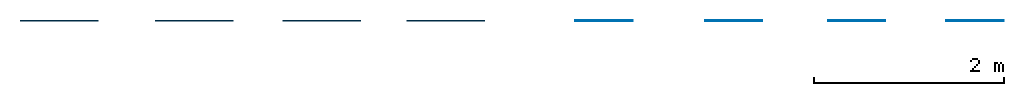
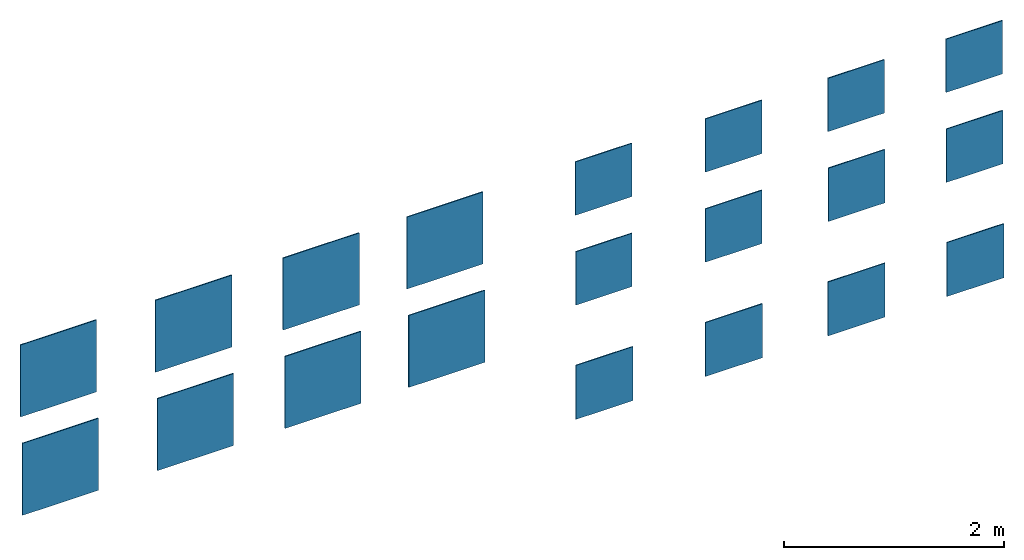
# One storey: 20 walls.
"""IFC2X3 building model written with IfcOpenShell, lengths in metres."""

from ifc_helpers import new_model, entity, si_unit, converted_unit, derived_unit, direction, frame, frame_2d, origin, place, context, subcontext, project, spatial, rectangle, extrude, material, layer, layer_set, layer_usage, type_object, element, save


model = new_model("IFC2X3")

# Units and contexts
model_context = context("Model", 3, precision=1e-05, world=origin(), true_north=direction((6.12303176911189e-17, 1.0)))
body_context = subcontext(model_context, "Body", "Model", "MODEL_VIEW")
ifc_project = project(units=[si_unit("LENGTHUNIT", "METRE"), si_unit("AREAUNIT", "SQUARE_METRE"), si_unit("VOLUMEUNIT", "CUBIC_METRE"), converted_unit("PLANEANGLEUNIT", "DEGREE", entity("IfcRatioMeasure", 0.0174532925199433), si_unit("PLANEANGLEUNIT", "RADIAN"), dimensions=[0, 0, 0, 0, 0, 0, 0]), si_unit("MASSUNIT", "GRAM", prefix="KILO"), si_unit("TIMEUNIT", "SECOND"), si_unit("FREQUENCYUNIT", "HERTZ"), si_unit("THERMODYNAMICTEMPERATUREUNIT", "DEGREE_CELSIUS"), derived_unit("THERMALTRANSMITTANCEUNIT", [(si_unit("MASSUNIT", "GRAM", prefix="KILO"), 1), (si_unit("THERMODYNAMICTEMPERATUREUNIT", "KELVIN"), -1), (si_unit("TIMEUNIT", "SECOND"), -3)]), derived_unit("VOLUMETRICFLOWRATEUNIT", [(si_unit("LENGTHUNIT", "METRE"), 3), (si_unit("TIMEUNIT", "SECOND"), -1)]), si_unit("ELECTRICCURRENTUNIT", "AMPERE"), si_unit("ELECTRICVOLTAGEUNIT", "VOLT"), si_unit("POWERUNIT", "WATT"), si_unit("FORCEUNIT", "NEWTON", prefix="KILO"), si_unit("ILLUMINANCEUNIT", "LUX"), si_unit("LUMINOUSFLUXUNIT", "LUMEN"), si_unit("LUMINOUSINTENSITYUNIT", "CANDELA"), derived_unit("USERDEFINED", [(si_unit("MASSUNIT", "GRAM", prefix="KILO"), -1), (si_unit("LENGTHUNIT", "METRE"), -2), (si_unit("TIMEUNIT", "SECOND"), 3), (si_unit("LUMINOUSFLUXUNIT", "LUMEN"), 1)]), derived_unit("LINEARVELOCITYUNIT", [(si_unit("LENGTHUNIT", "METRE"), 1), (si_unit("TIMEUNIT", "SECOND"), -1)]), si_unit("PRESSUREUNIT", "PASCAL"), derived_unit("USERDEFINED", [(si_unit("LENGTHUNIT", "METRE"), -2), (si_unit("MASSUNIT", "GRAM", prefix="KILO"), 1), (si_unit("TIMEUNIT", "SECOND"), -2)])], contexts=[model_context])

# Site, building, storey
site_placement = place(None, origin())
site = spatial("IfcSite", under=ifc_project, at=site_placement, Name="Default", CompositionType="ELEMENT")
building_placement = place(site_placement, origin())
building = spatial("IfcBuilding", under=site, at=building_placement, CompositionType="ELEMENT")
storey_placement = place(building_placement, frame((0.0, 0.0, 3.0)))
storey = spatial("IfcBuildingStorey", under=building, at=storey_placement, Name="Nivel 2", CompositionType="ELEMENT", Elevation=3.0)

# Walls
ifc_material_1 = material(Name="VIVES PORTOFINO CEMENTO 60x60")
ifc_layer_1 = layer(ifc_material_1, 0.01)
ifc_layer_set_1 = layer_set([ifc_layer_1], Name="Muro básico:VIVES - PORTOFINO CEMENTO 60X60")
ifc_layer_usage_1 = layer_usage(ifc_layer_set_1, "AXIS2", "NEGATIVE", 0.005)
wall_type_1 = type_object("IfcWallType", Name="Muro básico:VIVES - PORTOFINO CEMENTO 60X60", PredefinedType="STANDARD", material=ifc_layer_set_1)
wall_1_placement = place(storey_placement, frame((2.81809668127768, 0.493691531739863, -0.7)))
element("IfcWallStandardCase", 1, at=wall_1_placement, inside=storey, type_object=wall_type_1, material=ifc_layer_usage_1, Name="Muro básico:VIVES - PORTOFINO CEMENTO 60X60", ObjectType="Muro básico:VIVES - PORTOFINO CEMENTO 60X60", context=body_context, shape_type="SweptSolid", body=[
    extrude(rectangle(XDim=0.6, YDim=0.01, at=frame_2d((0.3, -4.77048955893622e-18), x_axis=(-1.0, 0.0))), origin(), (0.0, 0.0, 1.0), 0.6),
])
ifc_material_2 = material(Name="VIVES PORTOFINO GRAFITO 60x60")
ifc_layer_2 = layer(ifc_material_2, 0.01)
ifc_layer_set_2 = layer_set([ifc_layer_2], Name="Muro básico:VIVES - PORTOFINO GRAFITO 60X60")
ifc_layer_usage_2 = layer_usage(ifc_layer_set_2, "AXIS2", "NEGATIVE", 0.005)
wall_type_2 = type_object("IfcWallType", Name="Muro básico:VIVES - PORTOFINO GRAFITO 60X60", PredefinedType="STANDARD", material=ifc_layer_set_2)
wall_2_placement = place(storey_placement, frame((4.17984668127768, 0.493691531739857, -0.7)))
element("IfcWallStandardCase", 2, at=wall_2_placement, inside=storey, type_object=wall_type_2, material=ifc_layer_usage_2, Name="Muro básico:VIVES - PORTOFINO GRAFITO 60X60", ObjectType="Muro básico:VIVES - PORTOFINO GRAFITO 60X60", context=body_context, shape_type="SweptSolid", body=[
    extrude(rectangle(XDim=0.6, YDim=0.01, at=frame_2d((0.3, -4.77048955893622e-18), x_axis=(-1.0, 0.0))), origin(), (0.0, 0.0, 1.0), 0.6),
])
ifc_material_3 = material(Name="VIVES PORTOFINO CREMA 60x60")
ifc_layer_3 = layer(ifc_material_3, 0.01)
ifc_layer_set_3 = layer_set([ifc_layer_3], Name="Muro básico:VIVES - PORTOFINO CREMA 60X60")
ifc_layer_usage_3 = layer_usage(ifc_layer_set_3, "AXIS2", "NEGATIVE", 0.005)
wall_type_3 = type_object("IfcWallType", Name="Muro básico:VIVES - PORTOFINO CREMA 60X60", PredefinedType="STANDARD", material=ifc_layer_set_3)
wall_3_placement = place(storey_placement, frame((5.46984668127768, 0.493691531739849, -0.7)))
element("IfcWallStandardCase", 3, at=wall_3_placement, inside=storey, type_object=wall_type_3, material=ifc_layer_usage_3, Name="Muro básico:VIVES - PORTOFINO CREMA 60X60", ObjectType="Muro básico:VIVES - PORTOFINO CREMA 60X60", context=body_context, shape_type="SweptSolid", body=[
    extrude(rectangle(XDim=0.6, YDim=0.01, at=frame_2d((0.3, -4.77048955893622e-18), x_axis=(-1.0, 0.0))), origin(), (0.0, 0.0, 1.0), 0.6),
])
ifc_material_4 = material(Name="VIVES PORTOFINO HUMO 60x60")
ifc_layer_4 = layer(ifc_material_4, 0.01)
ifc_layer_set_4 = layer_set([ifc_layer_4], Name="Muro básico:VIVES - PORTOFINO HUMO 60X60")
ifc_layer_usage_4 = layer_usage(ifc_layer_set_4, "AXIS2", "NEGATIVE", 0.005)
wall_type_4 = type_object("IfcWallType", Name="Muro básico:VIVES - PORTOFINO HUMO 60X60", PredefinedType="STANDARD", material=ifc_layer_set_4)
wall_4_placement = place(storey_placement, frame((6.71809668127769, 0.493691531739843, -0.7)))
element("IfcWallStandardCase", 4, at=wall_4_placement, inside=storey, type_object=wall_type_4, material=ifc_layer_usage_4, Name="Muro básico:VIVES - PORTOFINO HUMO 60X60", ObjectType="Muro básico:VIVES - PORTOFINO HUMO 60X60", context=body_context, shape_type="SweptSolid", body=[
    extrude(rectangle(XDim=0.6, YDim=0.01, at=frame_2d((0.3, -4.77048955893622e-18), x_axis=(-1.0, 0.0))), origin(), (0.0, 0.0, 1.0), 0.6),
])
ifc_material_5 = material(Name="VIVES PORTOFINO-R HUMO 59.3x59.3")
ifc_layer_5 = layer(ifc_material_5, 0.01)
ifc_layer_set_5 = layer_set([ifc_layer_5], Name="Muro básico:VIVES - PORTOFINO-R HUMO 59,3X59,3")
ifc_layer_usage_5 = layer_usage(ifc_layer_set_5, "AXIS2", "NEGATIVE", 0.005)
wall_type_5 = type_object("IfcWallType", Name="Muro básico:VIVES - PORTOFINO-R HUMO 59,3X59,3", PredefinedType="STANDARD", material=ifc_layer_set_5)
wall_5_placement = place(storey_placement, frame((6.70984668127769, 0.493691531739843, 1.57)))
element("IfcWallStandardCase", 5, at=wall_5_placement, inside=storey, type_object=wall_type_5, material=ifc_layer_usage_5, Name="Muro básico:VIVES - PORTOFINO-R HUMO 59,3X59,3", ObjectType="Muro básico:VIVES - PORTOFINO-R HUMO 59,3X59,3", context=body_context, shape_type="SweptSolid", body=[
    extrude(rectangle(XDim=0.593, YDim=0.01, at=frame_2d((0.2965, 2.68882138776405e-17), x_axis=(-1.0, 0.0))), origin(), (0.0, 0.0, 1.0), 0.593000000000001),
])
ifc_material_6 = material(Name="VIVES PORTOFINO-R CREMA 59.3x59.3")
ifc_layer_6 = layer(ifc_material_6, 0.01)
ifc_layer_set_6 = layer_set([ifc_layer_6], Name="Muro básico:VIVES - PORTOFINO-R CREMA 59,3X59,3")
ifc_layer_usage_6 = layer_usage(ifc_layer_set_6, "AXIS2", "NEGATIVE", 0.005)
wall_type_6 = type_object("IfcWallType", Name="Muro básico:VIVES - PORTOFINO-R CREMA 59,3X59,3", PredefinedType="STANDARD", material=ifc_layer_set_6)
wall_6_placement = place(storey_placement, frame((5.46984668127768, 0.493691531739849, 1.57)))
element("IfcWallStandardCase", 6, at=wall_6_placement, inside=storey, type_object=wall_type_6, material=ifc_layer_usage_6, Name="Muro básico:VIVES - PORTOFINO-R CREMA 59,3X59,3", ObjectType="Muro básico:VIVES - PORTOFINO-R CREMA 59,3X59,3", context=body_context, shape_type="SweptSolid", body=[
    extrude(rectangle(XDim=0.593000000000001, YDim=0.01, at=frame_2d((0.2965, 2.68882138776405e-17), x_axis=(-1.0, 0.0))), origin(), (0.0, 0.0, 1.0), 0.593000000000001),
])
ifc_material_7 = material(Name="VIVES PORTOFINO-R GRAFITO 59.3x59.3")
ifc_layer_7 = layer(ifc_material_7, 0.01)
ifc_layer_set_7 = layer_set([ifc_layer_7], Name="Muro básico:VIVES - PORTOFINO-R GRAFITO 59,3X59,3")
ifc_layer_usage_7 = layer_usage(ifc_layer_set_7, "AXIS2", "NEGATIVE", 0.005)
wall_type_7 = type_object("IfcWallType", Name="Muro básico:VIVES - PORTOFINO-R GRAFITO 59,3X59,3", PredefinedType="STANDARD", material=ifc_layer_set_7)
wall_7_placement = place(storey_placement, frame((4.17984668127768, 0.493691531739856, 1.57)))
element("IfcWallStandardCase", 7, at=wall_7_placement, inside=storey, type_object=wall_type_7, material=ifc_layer_usage_7, Name="Muro básico:VIVES - PORTOFINO-R GRAFITO 59,3X59,3", ObjectType="Muro básico:VIVES - PORTOFINO-R GRAFITO 59,3X59,3", context=body_context, shape_type="SweptSolid", body=[
    extrude(rectangle(XDim=0.593, YDim=0.01, at=frame_2d((0.2965, 2.47198095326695e-17), x_axis=(-1.0, 0.0))), origin(), (0.0, 0.0, 1.0), 0.593000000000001),
])
ifc_material_8 = material(Name="VIVES PORTOFINO-R CEMENTO 59,3x59,3")
ifc_layer_8 = layer(ifc_material_8, 0.01)
ifc_layer_set_8 = layer_set([ifc_layer_8], Name="Muro básico:VIVES - PORTOFINO-R CEMENTO 59,3X59,3")
ifc_layer_usage_8 = layer_usage(ifc_layer_set_8, "AXIS2", "NEGATIVE", 0.005)
wall_type_8 = type_object("IfcWallType", Name="Muro básico:VIVES - PORTOFINO-R CEMENTO 59,3X59,3", PredefinedType="STANDARD", material=ifc_layer_set_8)
wall_8_placement = place(storey_placement, frame((2.81484668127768, 0.493691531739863, 1.57)))
element("IfcWallStandardCase", 8, at=wall_8_placement, inside=storey, type_object=wall_type_8, material=ifc_layer_usage_8, Name="Muro básico:VIVES - PORTOFINO-R CEMENTO 59,3X59,3", ObjectType="Muro básico:VIVES - PORTOFINO-R CEMENTO 59,3X59,3", context=body_context, shape_type="SweptSolid", body=[
    extrude(rectangle(XDim=0.593, YDim=0.01, at=frame_2d((0.2965, 2.68882138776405e-17), x_axis=(-1.0, 0.0))), origin(), (0.0, 0.0, 1.0), 0.593000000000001),
])
ifc_material_9 = material(Name="VIVES PORTOFINO-SPR HUMO 59.3x59.3")
ifc_layer_9 = layer(ifc_material_9, 0.01)
ifc_layer_set_9 = layer_set([ifc_layer_9], Name="Muro básico:VIVES - PORTOFINO-SPR HUMO 59,3X59,3")
ifc_layer_usage_9 = layer_usage(ifc_layer_set_9, "AXIS2", "NEGATIVE", 0.005)
wall_type_9 = type_object("IfcWallType", Name="Muro básico:VIVES - PORTOFINO-SPR HUMO 59,3X59,3", PredefinedType="STANDARD", material=ifc_layer_set_9)
wall_9_placement = place(storey_placement, frame((6.71309668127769, 0.493691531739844, 0.57)))
element("IfcWallStandardCase", 9, at=wall_9_placement, inside=storey, type_object=wall_type_9, material=ifc_layer_usage_9, Name="Muro básico:VIVES - PORTOFINO-SPR HUMO 59,3X59,3", ObjectType="Muro básico:VIVES - PORTOFINO-SPR HUMO 59,3X59,3", context=body_context, shape_type="SweptSolid", body=[
    extrude(rectangle(XDim=0.593, YDim=0.01, at=frame_2d((0.2965, 2.68882138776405e-17), x_axis=(-1.0, 0.0))), origin(), (0.0, 0.0, 1.0), 0.593),
])
ifc_material_10 = material(Name="VIVES PORTOFINO-SPR CREMA 59.3x59.3")
ifc_layer_10 = layer(ifc_material_10, 0.01)
ifc_layer_set_10 = layer_set([ifc_layer_10], Name="Muro básico:VIVES - PORTOFINO-SPR CREMA 59,3X59,3")
ifc_layer_usage_10 = layer_usage(ifc_layer_set_10, "AXIS2", "NEGATIVE", 0.005)
wall_type_10 = type_object("IfcWallType", Name="Muro básico:VIVES - PORTOFINO-SPR CREMA 59,3X59,3", PredefinedType="STANDARD", material=ifc_layer_set_10)
wall_10_placement = place(storey_placement, frame((5.47309668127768, 0.49369153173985, 0.57)))
element("IfcWallStandardCase", 10, at=wall_10_placement, inside=storey, type_object=wall_type_10, material=ifc_layer_usage_10, Name="Muro básico:VIVES - PORTOFINO-SPR CREMA 59,3X59,3", ObjectType="Muro básico:VIVES - PORTOFINO-SPR CREMA 59,3X59,3", context=body_context, shape_type="SweptSolid", body=[
    extrude(rectangle(XDim=0.593000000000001, YDim=0.01, at=frame_2d((0.2965, 2.68882138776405e-17), x_axis=(-1.0, 0.0))), origin(), (0.0, 0.0, 1.0), 0.593),
])
ifc_material_11 = material(Name="VIVES PORTOFINO-SPR GRAFITO 59.3x59.3")
ifc_layer_11 = layer(ifc_material_11, 0.01)
ifc_layer_set_11 = layer_set([ifc_layer_11], Name="Muro básico:VIVES - PORTOFINO-SPR GRAFITO 59,3X59,3")
ifc_layer_usage_11 = layer_usage(ifc_layer_set_11, "AXIS2", "NEGATIVE", 0.005)
wall_type_11 = type_object("IfcWallType", Name="Muro básico:VIVES - PORTOFINO-SPR GRAFITO 59,3X59,3", PredefinedType="STANDARD", material=ifc_layer_set_11)
wall_11_placement = place(storey_placement, frame((4.18309668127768, 0.493691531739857, 0.57)))
element("IfcWallStandardCase", 11, at=wall_11_placement, inside=storey, type_object=wall_type_11, material=ifc_layer_usage_11, Name="Muro básico:VIVES - PORTOFINO-SPR GRAFITO 59,3X59,3", ObjectType="Muro básico:VIVES - PORTOFINO-SPR GRAFITO 59,3X59,3", context=body_context, shape_type="SweptSolid", body=[
    extrude(rectangle(XDim=0.593, YDim=0.01, at=frame_2d((0.2965, 2.47198095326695e-17), x_axis=(-1.0, 0.0))), origin(), (0.0, 0.0, 1.0), 0.593),
])
ifc_material_12 = material(Name="VIVES PORTOFINO-SPR CEMENTO 59.3x59.3")
ifc_layer_12 = layer(ifc_material_12, 0.01)
ifc_layer_set_12 = layer_set([ifc_layer_12], Name="Muro básico:VIVES - PORTOFINO-SPR CEMENTO 59,3X59,3")
ifc_layer_usage_12 = layer_usage(ifc_layer_set_12, "AXIS2", "NEGATIVE", 0.005)
wall_type_12 = type_object("IfcWallType", Name="Muro básico:VIVES - PORTOFINO-SPR CEMENTO 59,3X59,3", PredefinedType="STANDARD", material=ifc_layer_set_12)
wall_12_placement = place(storey_placement, frame((2.81809668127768, 0.493691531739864, 0.57)))
element("IfcWallStandardCase", 12, at=wall_12_placement, inside=storey, type_object=wall_type_12, material=ifc_layer_usage_12, Name="Muro básico:VIVES - PORTOFINO-SPR CEMENTO 59,3X59,3", ObjectType="Muro básico:VIVES - PORTOFINO-SPR CEMENTO 59,3X59,3", context=body_context, shape_type="SweptSolid", body=[
    extrude(rectangle(XDim=0.593, YDim=0.01, at=frame_2d((0.2965, 2.68882138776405e-17), x_axis=(-1.0, 0.0))), origin(), (0.0, 0.0, 1.0), 0.593),
])
ifc_material_13 = material(Name="VIVES PORTOFINO-R CEMENTO 80x80")
ifc_layer_13 = layer(ifc_material_13, 0.011)
ifc_layer_set_13 = layer_set([ifc_layer_13], Name="Muro básico:VIVES - PORTOFINO-R CEMENTO 80X80")
ifc_layer_usage_13 = layer_usage(ifc_layer_set_13, "AXIS2", "NEGATIVE", 0.0055)
wall_type_13 = type_object("IfcWallType", Name="Muro básico:VIVES - PORTOFINO-R CEMENTO 80X80", PredefinedType="STANDARD", material=ifc_layer_set_13)
wall_13_placement = place(storey_placement, frame((-3.0169016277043, 0.494191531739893, 1.37)))
element("IfcWallStandardCase", 13, at=wall_13_placement, inside=storey, type_object=wall_type_13, material=ifc_layer_usage_13, Name="Muro básico:VIVES - PORTOFINO-R CEMENTO 80X80", ObjectType="Muro básico:VIVES - PORTOFINO-R CEMENTO 80X80", context=body_context, shape_type="SweptSolid", body=[
    extrude(rectangle(XDim=0.8, YDim=0.0109999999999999, at=frame_2d((0.4, -1.73472347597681e-17), x_axis=(-1.0, 0.0))), origin(), (0.0, 0.0, 1.0), 0.8),
])
ifc_material_14 = material(Name="VIVES PORTOFINO-R GRAFITO 80x80")
ifc_layer_14 = layer(ifc_material_14, 0.011)
ifc_layer_set_14 = layer_set([ifc_layer_14], Name="Muro básico:VIVES - PORTOFINO-R GRAFITO 80X80")
ifc_layer_usage_14 = layer_usage(ifc_layer_set_14, "AXIS2", "NEGATIVE", 0.0055)
wall_type_14 = type_object("IfcWallType", Name="Muro básico:VIVES - PORTOFINO-R GRAFITO 80X80", PredefinedType="STANDARD", material=ifc_layer_set_14)
wall_14_placement = place(storey_placement, frame((-1.5969016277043, 0.494191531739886, 1.37)))
element("IfcWallStandardCase", 14, at=wall_14_placement, inside=storey, type_object=wall_type_14, material=ifc_layer_usage_14, Name="Muro básico:VIVES - PORTOFINO-R GRAFITO 80X80", ObjectType="Muro básico:VIVES - PORTOFINO-R GRAFITO 80X80", context=body_context, shape_type="SweptSolid", body=[
    extrude(rectangle(XDim=0.8, YDim=0.0109999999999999, at=frame_2d((0.4, -1.73472347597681e-17), x_axis=(-1.0, 0.0))), origin(), (0.0, 0.0, 1.0), 0.8),
])
ifc_material_15 = material(Name="VIVES PORTOFINO-R CREMA 80x80")
ifc_layer_15 = layer(ifc_material_15, 0.011)
ifc_layer_set_15 = layer_set([ifc_layer_15], Name="Muro básico:VIVES - PORTOFINO-R CREMA 80X80")
ifc_layer_usage_15 = layer_usage(ifc_layer_set_15, "AXIS2", "NEGATIVE", 0.0055)
wall_type_15 = type_object("IfcWallType", Name="Muro básico:VIVES - PORTOFINO-R CREMA 80X80", PredefinedType="STANDARD", material=ifc_layer_set_15)
wall_15_placement = place(storey_placement, frame((-0.256901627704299, 0.494191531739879, 1.37)))
element("IfcWallStandardCase", 15, at=wall_15_placement, inside=storey, type_object=wall_type_15, material=ifc_layer_usage_15, Name="Muro básico:VIVES - PORTOFINO-R CREMA 80X80", ObjectType="Muro básico:VIVES - PORTOFINO-R CREMA 80X80", context=body_context, shape_type="SweptSolid", body=[
    extrude(rectangle(XDim=0.8, YDim=0.0109999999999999, at=frame_2d((0.4, -1.73472347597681e-17), x_axis=(-1.0, 0.0))), origin(), (0.0, 0.0, 1.0), 0.8),
])
ifc_material_16 = material(Name="VIVES PORTOFINO-R HUMO 80x80")
ifc_layer_16 = layer(ifc_material_16, 0.011)
ifc_layer_set_16 = layer_set([ifc_layer_16], Name="Muro básico:VIVES - PORTOFINO-R HUMO 80X80")
ifc_layer_usage_16 = layer_usage(ifc_layer_set_16, "AXIS2", "NEGATIVE", 0.0055)
wall_type_16 = type_object("IfcWallType", Name="Muro básico:VIVES - PORTOFINO-R HUMO 80X80", PredefinedType="STANDARD", material=ifc_layer_set_16)
wall_16_placement = place(storey_placement, frame((1.0430983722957, 0.494191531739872, 1.37)))
element("IfcWallStandardCase", 16, at=wall_16_placement, inside=storey, type_object=wall_type_16, material=ifc_layer_usage_16, Name="Muro básico:VIVES - PORTOFINO-R HUMO 80X80", ObjectType="Muro básico:VIVES - PORTOFINO-R HUMO 80X80", context=body_context, shape_type="SweptSolid", body=[
    extrude(rectangle(XDim=0.8, YDim=0.0109999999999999, at=frame_2d((0.4, -1.73472347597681e-17), x_axis=(-1.0, 0.0))), origin(), (0.0, 0.0, 1.0), 0.8),
])
ifc_material_17 = material(Name="VIVES PORTOFINO-SPR CEMENTO 80x80")
ifc_layer_17 = layer(ifc_material_17, 0.011)
ifc_layer_set_17 = layer_set([ifc_layer_17], Name="Muro básico:VIVES - PORTOFINO-SPR CEMENTO 80X80")
ifc_layer_usage_17 = layer_usage(ifc_layer_set_17, "AXIS2", "NEGATIVE", 0.0055)
wall_type_17 = type_object("IfcWallType", Name="Muro básico:VIVES - PORTOFINO-SPR CEMENTO 80X80", PredefinedType="STANDARD", material=ifc_layer_set_17)
wall_17_placement = place(storey_placement, frame((-2.99690162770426, 0.494191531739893, 0.27)))
element("IfcWallStandardCase", 17, at=wall_17_placement, inside=storey, type_object=wall_type_17, material=ifc_layer_usage_17, Name="Muro básico:VIVES - PORTOFINO-SPR CEMENTO 80X80", ObjectType="Muro básico:VIVES - PORTOFINO-SPR CEMENTO 80X80", context=body_context, shape_type="SweptSolid", body=[
    extrude(rectangle(XDim=0.8, YDim=0.0109999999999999, at=frame_2d((0.4, -1.73472347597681e-17), x_axis=(-1.0, 0.0))), origin(), (0.0, 0.0, 1.0), 0.8),
])
ifc_material_18 = material(Name="VIVES PORTOFINO-SPR GRAFITO 80x80")
ifc_layer_18 = layer(ifc_material_18, 0.011)
ifc_layer_set_18 = layer_set([ifc_layer_18], Name="Muro básico:VIVES - PORTOFINO-SPR GRAFITO 80X80")
ifc_layer_usage_18 = layer_usage(ifc_layer_set_18, "AXIS2", "NEGATIVE", 0.0055)
wall_type_18 = type_object("IfcWallType", Name="Muro básico:VIVES - PORTOFINO-SPR GRAFITO 80X80", PredefinedType="STANDARD", material=ifc_layer_set_18)
wall_18_placement = place(storey_placement, frame((-1.57690162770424, 0.494191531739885, 0.27)))
element("IfcWallStandardCase", 18, at=wall_18_placement, inside=storey, type_object=wall_type_18, material=ifc_layer_usage_18, Name="Muro básico:VIVES - PORTOFINO-SPR GRAFITO 80X80", ObjectType="Muro básico:VIVES - PORTOFINO-SPR GRAFITO 80X80", context=body_context, shape_type="SweptSolid", body=[
    extrude(rectangle(XDim=0.8, YDim=0.0109999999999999, at=frame_2d((0.4, -1.73472347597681e-17), x_axis=(-1.0, 0.0))), origin(), (0.0, 0.0, 1.0), 0.8),
])
ifc_material_19 = material(Name="VIVES PORTOFINO-SPR CREMA 80x80")
ifc_layer_19 = layer(ifc_material_19, 0.011)
ifc_layer_set_19 = layer_set([ifc_layer_19], Name="Muro básico:VIVES - PORTOFINO-SPR CREMA 80X80")
ifc_layer_usage_19 = layer_usage(ifc_layer_set_19, "AXIS2", "NEGATIVE", 0.0055)
wall_type_19 = type_object("IfcWallType", Name="Muro básico:VIVES - PORTOFINO-SPR CREMA 80X80", PredefinedType="STANDARD", material=ifc_layer_set_19)
wall_19_placement = place(storey_placement, frame((-0.236901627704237, 0.494191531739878, 0.27)))
element("IfcWallStandardCase", 19, at=wall_19_placement, inside=storey, type_object=wall_type_19, material=ifc_layer_usage_19, Name="Muro básico:VIVES - PORTOFINO-SPR CREMA 80X80", ObjectType="Muro básico:VIVES - PORTOFINO-SPR CREMA 80X80", context=body_context, shape_type="SweptSolid", body=[
    extrude(rectangle(XDim=0.8, YDim=0.0109999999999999, at=frame_2d((0.4, -1.73472347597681e-17), x_axis=(-1.0, 0.0))), origin(), (0.0, 0.0, 1.0), 0.8),
])
ifc_material_20 = material(Name="VIVES PORTOFINO-SPR HUMO 80x80")
ifc_layer_20 = layer(ifc_material_20, 0.011)
ifc_layer_set_20 = layer_set([ifc_layer_20], Name="Muro básico:VIVES - PORTOFINO-SPR HUMO 80X80")
ifc_layer_usage_20 = layer_usage(ifc_layer_set_20, "AXIS2", "NEGATIVE", 0.0055)
wall_type_20 = type_object("IfcWallType", Name="Muro básico:VIVES - PORTOFINO-SPR HUMO 80X80", PredefinedType="STANDARD", material=ifc_layer_set_20)
wall_20_placement = place(storey_placement, frame((1.06309837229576, 0.494191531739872, 0.27)))
element("IfcWallStandardCase", 20, at=wall_20_placement, inside=storey, type_object=wall_type_20, material=ifc_layer_usage_20, Name="Muro básico:VIVES - PORTOFINO-SPR HUMO 80X80", ObjectType="Muro básico:VIVES - PORTOFINO-SPR HUMO 80X80", context=body_context, shape_type="SweptSolid", body=[
    extrude(rectangle(XDim=0.8, YDim=0.0109999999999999, at=frame_2d((0.4, -1.73472347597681e-17), x_axis=(-1.0, 0.0))), origin(), (0.0, 0.0, 1.0), 0.8),
])

save(model, "model.ifc")
